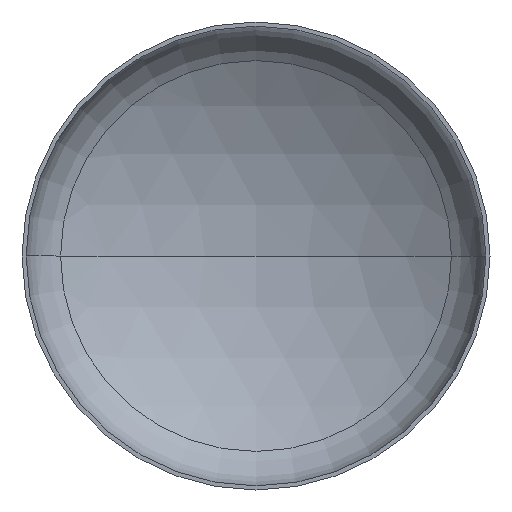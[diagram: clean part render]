
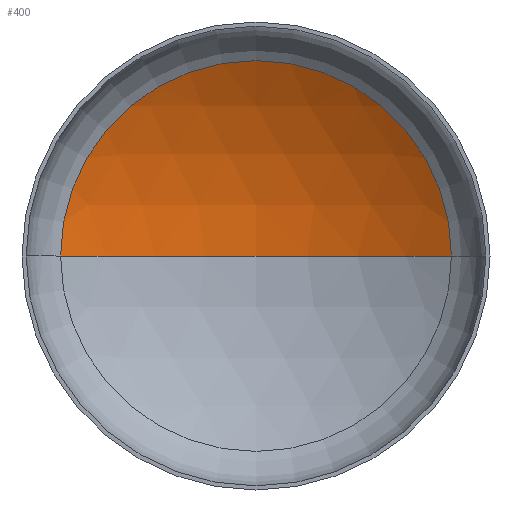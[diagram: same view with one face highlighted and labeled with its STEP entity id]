
A CAD part, front view. The second image highlights one B-rep face of the part: STEP entity #400.
In plain terms, the highlighted spherical face has radius 2080 mm.
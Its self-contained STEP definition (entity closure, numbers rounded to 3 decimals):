
#24 = AXIS2_PLACEMENT_3D ( 'NONE', #211, #208, #210 ) ;
#27 = AXIS2_PLACEMENT_3D ( 'NONE', #338, #279, #42 ) ;
#28 = AXIS2_PLACEMENT_3D ( 'NONE', #200, #358, #216 ) ;
#40 = EDGE_LOOP ( 'NONE', ( #190, #139, #123 ) ) ;
#42 = DIRECTION ( 'NONE',  ( -1., 0., 0. ) ) ;
#72 = VERTEX_POINT ( 'NONE', #292 ) ;
#80 = VERTEX_POINT ( 'NONE', #304 ) ;
#86 = EDGE_CURVE ( 'NONE', #104, #72, #349, .T. ) ;
#101 = AXIS2_PLACEMENT_3D ( 'NONE', #385, #221, #383 ) ;
#104 = VERTEX_POINT ( 'NONE', #197 ) ;
#115 = EDGE_CURVE ( 'NONE', #80, #104, #277, .T. ) ;
#123 = ORIENTED_EDGE ( 'NONE', *, *, #86, .T. ) ;
#139 = ORIENTED_EDGE ( 'NONE', *, *, #115, .T. ) ;
#142 = EDGE_CURVE ( 'NONE', #80, #72, #397, .T. ) ;
#190 = ORIENTED_EDGE ( 'NONE', *, *, #142, .F. ) ;
#197 = CARTESIAN_POINT ( 'NONE',  ( 1085.81, 411.172, 0. ) ) ;
#200 = CARTESIAN_POINT ( 'NONE',  ( 0., 411.172, 0. ) ) ;
#208 = DIRECTION ( 'NONE',  ( 0., 0., 1. ) ) ;
#210 = DIRECTION ( 'NONE',  ( 1., 0., 0. ) ) ;
#211 = CARTESIAN_POINT ( 'NONE',  ( 0., -1362.924, 0. ) ) ;
#216 = DIRECTION ( 'NONE',  ( 1., 0., 0. ) ) ;
#221 = DIRECTION ( 'NONE',  ( 0., 0., -1. ) ) ;
#227 = FACE_OUTER_BOUND ( 'NONE', #40, .T. ) ;
#277 = CIRCLE ( 'NONE', #27, 2080. ) ;
#279 = DIRECTION ( 'NONE',  ( 0., 0., -1. ) ) ;
#292 = CARTESIAN_POINT ( 'NONE',  ( -1085.81, 411.172, 0. ) ) ;
#304 = CARTESIAN_POINT ( 'NONE',  ( 0., 717.076, 0. ) ) ;
#338 = CARTESIAN_POINT ( 'NONE',  ( 0., -1362.924, 0. ) ) ;
#349 = CIRCLE ( 'NONE', #28, 1085.81 ) ;
#358 = DIRECTION ( 'NONE',  ( 0., -1., 0. ) ) ;
#383 = DIRECTION ( 'NONE',  ( -1., 0., 0. ) ) ;
#385 = CARTESIAN_POINT ( 'NONE',  ( 0., -1362.924, 0. ) ) ;
#397 = CIRCLE ( 'NONE', #24, 2080. ) ;
#400 = ADVANCED_FACE ( 'NONE', ( #227 ), #407, .F. ) ;
#407 = SPHERICAL_SURFACE ( 'NONE', #101, 2080. ) ;
